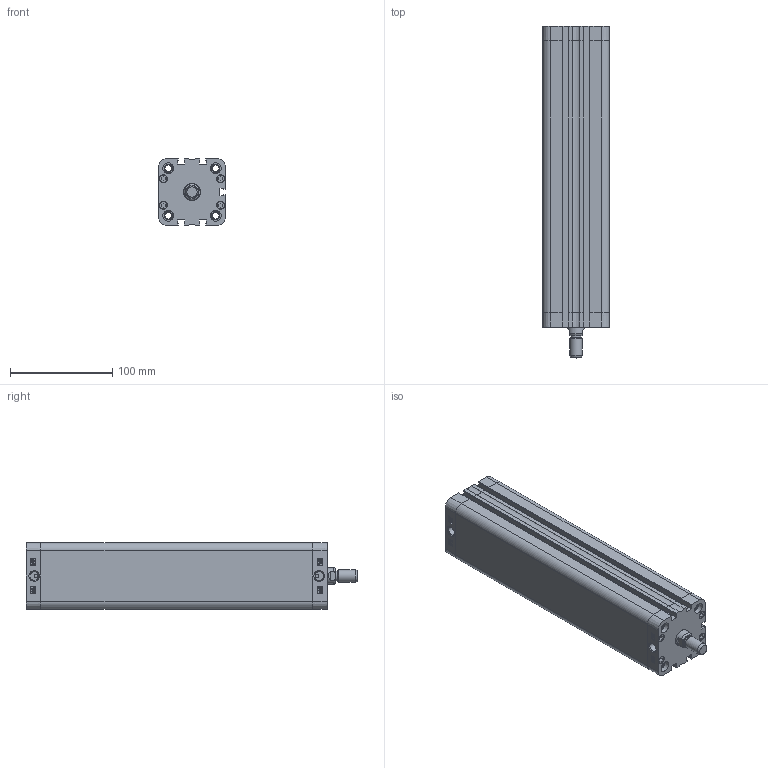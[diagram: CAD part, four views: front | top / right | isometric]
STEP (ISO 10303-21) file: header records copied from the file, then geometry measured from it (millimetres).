
FILE_DESCRIPTION((''),'2;1');
FILE_NAME('T:\Archivio Inventor\- CATALOGHI 2012\SERIE P - NUOVA\PDM\PDM050\PDM050.---.GS.M\PDM050.250.GS.M.stp','2013-02-01T12:22:51',('Administrator'),(''),'Autodesk Inventor 2012','Autodesk Inventor 2012','');
FILE_SCHEMA(('CONFIG_CONTROL_DESIGN'));
Length unit declared in the file: millimetre
Products named in the file (1): PDM050.250.GS.M
Bounding box: 65.5 x 325 x 65.5 mm (x, y, z)
Volume: 523081.8 mm3; surface area: 210108.5 mm2
Topology: 2 solids, 6 shells, 780 faces, 1860 edges, 1167 vertices
Faces by surface type: plane 335, bspline 196, cylinder 131, torus 56, cone 46, sphere 16
Full cylindrical faces by diameter (mm): 3.5 x2, 5.2 x4, 6.647 x8, 7.5 x8, 7.7 x8, 8.047 x4, 8.566 x2, 10 x1, 10.5 x8, 12 x2, 16 x1, 16.5 x1, 50 x1, 52.4 x1, 52.6 x1
Entity records: 25595 total; most frequent: CARTESIAN_POINT 8480, ORIENTED_EDGE 3488, DIRECTION 2866, EDGE_CURVE 1744, VERTEX_POINT 1148, AXIS2_PLACEMENT_3D 978, EDGE_LOOP 962, VECTOR 910
